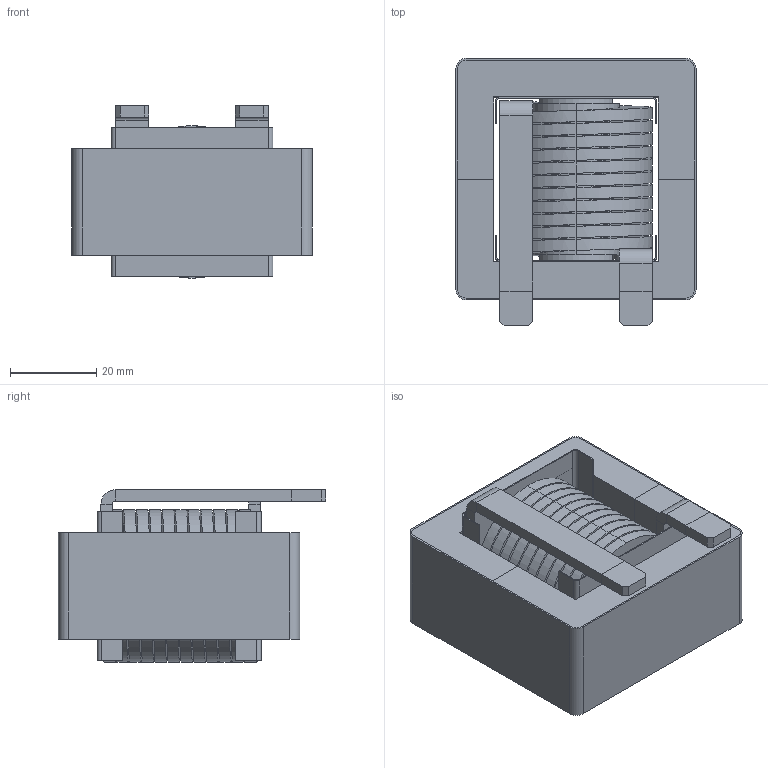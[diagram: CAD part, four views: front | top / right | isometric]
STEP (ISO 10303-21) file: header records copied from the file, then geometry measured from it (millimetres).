
FILE_DESCRIPTION (( 'STEP AP214' ), '1' );
FILE_NAME ('ES55242-140M-200AV.STEP', '2021-05-08T11:04:46', ( '' ), ( '' ), 'SwSTEP 2.0', 'SolidWorks 2015', '' );
FILE_SCHEMA (( 'AUTOMOTIVE_DESIGN' ));
Length unit declared in the file: millimetre
Products named in the file (6): ES55242-140M-200AV; CENTER MYLAR; SIDE MYLAR; HELICAL COIL; E CORE; WRAPPER
Assembly tree (7 placements, depth 2):
  ES55242-140M-200AV
    HELICAL COIL
    E CORE  x2
    SIDE MYLAR  x2
    CENTER MYLAR
    WRAPPER
Bounding box: 55.62 x 61.9 x 39.9 mm (x, y, z)
Volume: 73720.7 mm3; surface area: 58713.4 mm2
Topology: 9 solids, 9 shells, 336 faces, 888 edges, 584 vertices
Faces by surface type: plane 193, cylinder 84, bspline 59
Entity records: 16340 total; most frequent: CARTESIAN_POINT 7402, ORIENTED_EDGE 1608, DIRECTION 1148, EDGE_CURVE 804, LINE 532, VECTOR 532, VERTEX_POINT 528, EDGE_LOOP 326
